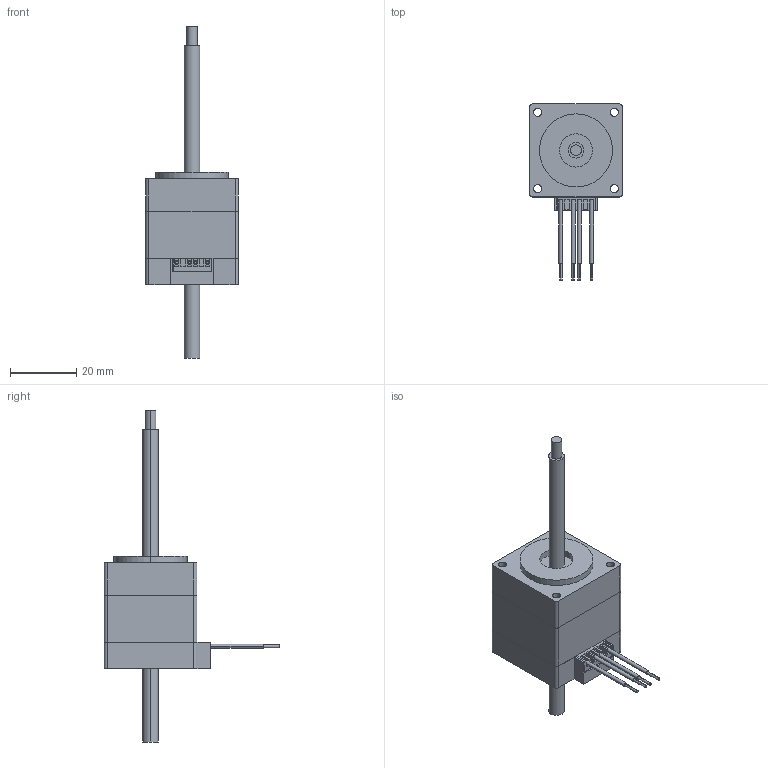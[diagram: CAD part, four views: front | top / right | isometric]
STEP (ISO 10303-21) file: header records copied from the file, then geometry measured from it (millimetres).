
FILE_DESCRIPTION (( 'STEP AP203' ), '1' );
FILE_NAME ('28SN1832-410-TR4.77£ª0.635-100-01.STEP', '2022-07-05T11:32:35', ( 'USER-' ), ( 'MS' ), 'SwSTEP 2.0', 'SolidWorks 2018', '' );
FILE_SCHEMA (( 'CONFIG_CONTROL_DESIGN' ));
Length unit declared in the file: millimetre
Products named in the file (1): 28SN1832-410-TR4.77＊0.635-100-01
Bounding box: 28 x 53 x 100 mm (x, y, z)
Volume: 27143.1 mm3; surface area: 11148.1 mm2
Topology: 2 solids, 2 shells, 139 faces, 354 edges, 236 vertices
Faces by surface type: plane 73, cylinder 66
Entity records: 4363 total; most frequent: DIRECTION 766, CARTESIAN_POINT 730, ORIENTED_EDGE 708, EDGE_CURVE 354, AXIS2_PLACEMENT_3D 272, VERTEX_POINT 236, VECTOR 222, LINE 222
